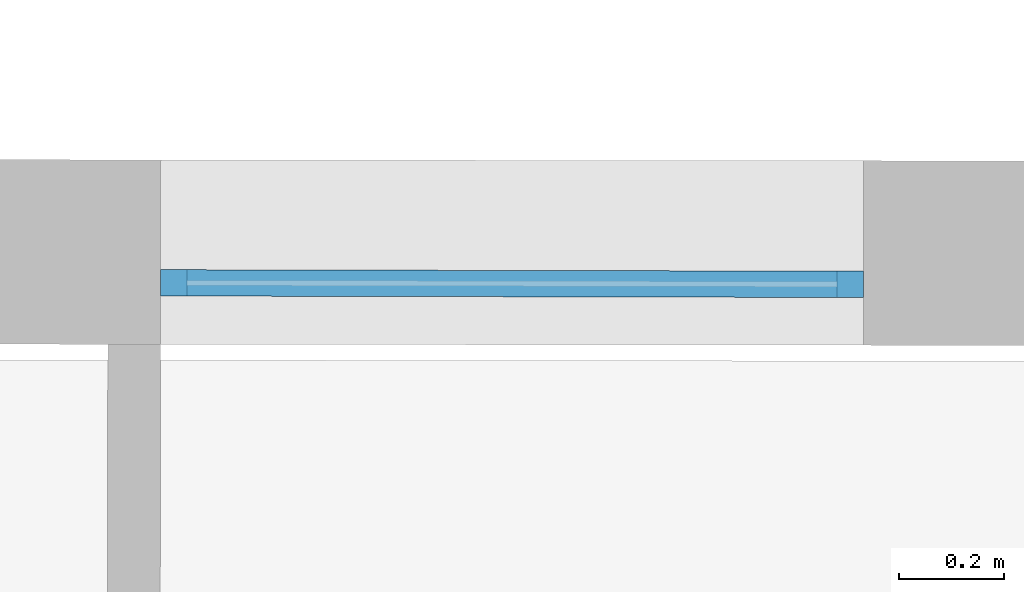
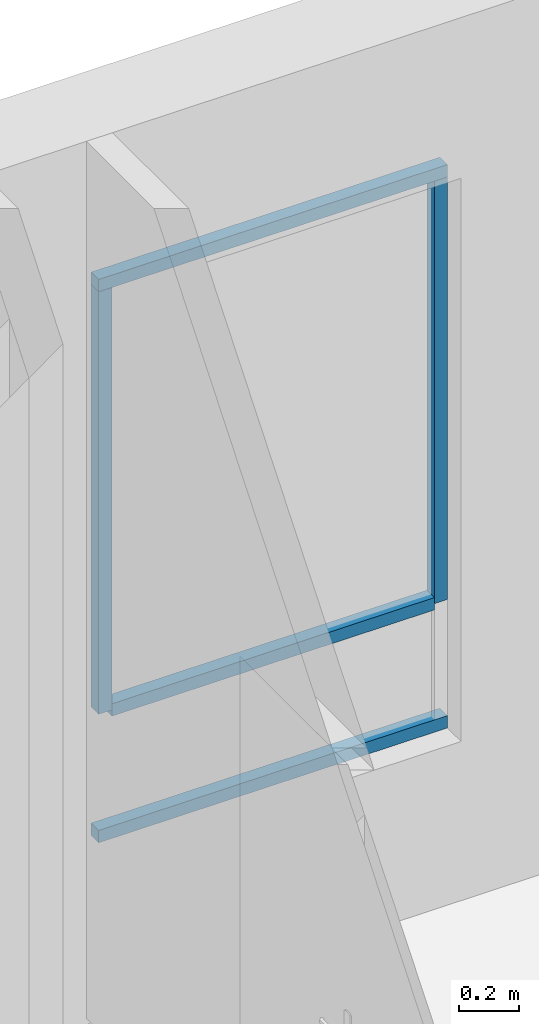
# One storey, part 19 of 101: 5 members, 1 element without a shape of its own.
"""IFC2X3 building model written with IfcOpenShell, lengths in metres."""

from ifc_helpers import new_model, entity, si_unit, converted_unit, derived_unit, direction, frame, frame_2d, origin, origin_2d_with_axis, place, context, subcontext, project, spatial, rectangle, extrude, source, transform, mapped, material, type_object, type_shapes, element, aggregate, save


model = new_model("IFC2X3")

# Units and contexts
model_context = context("Model", 3, precision=1e-05, world=origin(), true_north=direction((6.123233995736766e-17, 1.0)))
body_context = subcontext(model_context, "Body", "Model", "MODEL_VIEW")
ifc_project = project(units=[si_unit("LENGTHUNIT", "METRE"), si_unit("AREAUNIT", "SQUARE_METRE"), converted_unit("PLANEANGLEUNIT", "DEGREE", entity("IfcPlaneAngleMeasure", 0.017453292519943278), si_unit("PLANEANGLEUNIT", "RADIAN"), dimensions=[0, 0, 0, 0, 0, 0, 0]), derived_unit("THERMALTRANSMITTANCEUNIT", [(si_unit("MASSUNIT", "GRAM", prefix="KILO"), 1), (si_unit("THERMODYNAMICTEMPERATUREUNIT", "KELVIN"), -1), (si_unit("TIMEUNIT", "SECOND"), -3)])], contexts=[model_context])

# Site, building, storey
site_placement = place(None, frame((1253.6752467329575, 2072.143113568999, 91.49999999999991), z_axis=(0.0, 0.0, 1.0), x_axis=(0.7237211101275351, 0.6900925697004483, 0.0)))
site = spatial("IfcSite", under=ifc_project, at=site_placement, Name="Surface", CompositionType="ELEMENT")
building_placement = place(site_placement, origin())
building = spatial("IfcBuilding", under=site, at=building_placement, CompositionType="ELEMENT")
storey_placement = place(building_placement, origin())
storey = spatial("IfcBuildingStorey", under=building, at=storey_placement, Name="0- Rdc", CompositionType="ELEMENT", Elevation=-5.764692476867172e-13)

# Curtain wall, members
curtain_wall_type = type_object("IfcCurtainWallType", Name="Mur-rideau:Menuiserie Ext 1F+1OB VERTIC", PredefinedType="NOTDEFINED")
curtain_wall_placement = place(storey_placement, origin())
curtain_wall = element("IfcCurtainWall", 1, at=curtain_wall_placement, inside=storey, type_object=curtain_wall_type, Name="Mur-rideau:Menuiserie Ext 1F+1OB VERTIC", ObjectType="Mur-rideau:Menuiserie Ext 1F+1OB VERTIC")
ifc_material = material(Name="OMD_Aluminium Men Ext")
member_type_1 = type_object("IfcMemberType", Name="Meneau rectangulaire:50x50", PredefinedType="MULLION", material=ifc_material)
shared_shape_1 = source(origin(), body_context, "Body", "SweptSolid", [
    extrude(rectangle(XDim=0.05, YDim=0.05000000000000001, at=origin_2d_with_axis()), frame((-0.025, 0.0, -1.7099999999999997), z_axis=(0.0, 0.0, 1.0), x_axis=(-1.0, 0.0, 0.0)), (0.0, 0.0, 1.0), 1.7099999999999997),
])
type_shapes(member_type_1, [shared_shape_1])
member_1_placement = place(curtain_wall_placement, frame((197.01401796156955, -2.0159972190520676, 2.8499999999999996), z_axis=(0.0, 0.0, 1.0), x_axis=(0.722229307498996, -0.6916536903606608, 0.0)))
member_1 = element("IfcMember", 2, at=member_1_placement, type_object=member_type_1, material=ifc_material, Name="Meneau rectangulaire:50x50", ObjectType="Meneau rectangulaire:50x50", context=body_context, shape_type="MappedRepresentation", body=[
    mapped(shared_shape_1, transform((0.0, 0.0, 0.0), scale=1.0)),
])
member_type_2 = type_object("IfcMemberType", Name="Meneau rectangulaire:50x50", PredefinedType="MULLION", material=ifc_material)
shared_shape_2 = source(origin(), body_context, "Body", "SweptSolid", [
    extrude(rectangle(XDim=0.05, YDim=0.049999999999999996, at=origin_2d_with_axis()), frame((-0.025, 0.0, -1.7099999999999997), z_axis=(0.0, 0.0, 1.0), x_axis=(-1.0, 0.0, 0.0)), (0.0, 0.0, 1.0), 1.7099999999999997),
])
type_shapes(member_type_2, [shared_shape_2])
member_2_placement = place(curtain_wall_placement, frame((196.0511874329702, -1.0939281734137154, 1.14), z_axis=(0.0, 0.0, -1.0), x_axis=(-0.722229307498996, 0.6916536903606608, 0.0)))
member_2 = element("IfcMember", 3, at=member_2_placement, type_object=member_type_2, material=ifc_material, Name="Meneau rectangulaire:50x50", ObjectType="Meneau rectangulaire:50x50", context=body_context, shape_type="MappedRepresentation", body=[
    mapped(shared_shape_2, transform((0.0, 0.0, 0.0), scale=1.0)),
])
member_type_3 = type_object("IfcMemberType", Name="Meneau rectangulaire:50x50", PredefinedType="MULLION", material=ifc_material)
shared_shape_3 = source(origin(), body_context, "Body", "SweptSolid", [
    extrude(rectangle(XDim=0.05, YDim=0.05, at=origin_2d_with_axis()), frame((-0.025, 0.0, -1.3331368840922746), z_axis=(0.0, 0.0, 1.0), x_axis=(-1.0, 0.0, 0.0)), (0.0, 0.0, 1.0), 1.3331368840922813),
])
type_shapes(member_type_3, [shared_shape_3])
member_3_placement = place(curtain_wall_placement, frame((196.0511874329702, -1.0939281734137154, 2.8999999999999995), z_axis=(-0.7222293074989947, 0.691653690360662, 0.0), x_axis=(0.0, 0.0, 1.0)))
member_3 = element("IfcMember", 4, at=member_3_placement, type_object=member_type_3, material=ifc_material, Name="Meneau rectangulaire:50x50", ObjectType="Meneau rectangulaire:50x50", context=body_context, shape_type="MappedRepresentation", body=[
    mapped(shared_shape_3, transform((0.0, 0.0, 0.0), scale=1.0)),
])
member_type_4 = type_object("IfcMemberType", Name="Meneau rectangulaire:50x50", PredefinedType="MULLION", material=ifc_material)
shared_shape_4 = source(origin(), body_context, "Body", "SweptSolid", [
    extrude(rectangle(XDim=0.05, YDim=0.05000000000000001, at=origin_2d_with_axis()), frame((-0.025, 0.0, -1.333136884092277), z_axis=(0.0, 0.0, 1.0), x_axis=(-1.0, 0.0, 0.0)), (0.0, 0.0, 1.0), 1.3331368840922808),
])
type_shapes(member_type_4, [shared_shape_4])
member_4_placement = place(curtain_wall_placement, frame((197.01401796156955, -2.0159972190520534, 0.62), z_axis=(0.7222293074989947, -0.691653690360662, 0.0), x_axis=(0.0, 0.0, -1.0)))
member_4 = element("IfcMember", 5, at=member_4_placement, type_object=member_type_4, material=ifc_material, Name="Meneau rectangulaire:50x50", ObjectType="Meneau rectangulaire:50x50", context=body_context, shape_type="MappedRepresentation", body=[
    mapped(shared_shape_4, transform((0.0, 0.0, 0.0), scale=1.0)),
])
member_type_5 = type_object("IfcMemberType", Name="Meneau rectangulaire:50x50", PredefinedType="MULLION", material=ifc_material)
shared_shape_5 = source(origin(), body_context, "Body", "SweptSolid", [
    extrude(rectangle(XDim=0.05, YDim=0.05, at=frame_2d((0.0, -1.734723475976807e-18), x_axis=(1.0, 0.0))), frame((0.0, 0.0, -1.233136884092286), z_axis=(0.0, 0.0, 1.0), x_axis=(-1.0, 0.0, 0.0)), (0.0, 0.0, 1.0), 1.2331368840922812),
])
type_shapes(member_type_5, [shared_shape_5])
member_5_placement = place(curtain_wall_placement, frame((196.08729889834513, -1.1285108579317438, 1.14), z_axis=(-0.7222293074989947, 0.691653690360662, 0.0), x_axis=(0.0, 0.0, 1.0)))
member_5 = element("IfcMember", 6, at=member_5_placement, type_object=member_type_5, material=ifc_material, Name="Meneau rectangulaire:50x50", ObjectType="Meneau rectangulaire:50x50", context=body_context, shape_type="MappedRepresentation", body=[
    mapped(shared_shape_5, transform((0.0, 0.0, 0.0), scale=1.0)),
])
aggregate(curtain_wall, [member_3, member_4, member_1, member_2, member_5])

save(model, "model.ifc")
